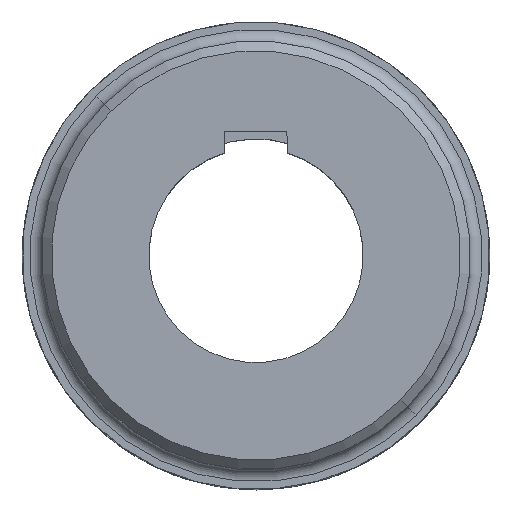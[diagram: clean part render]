
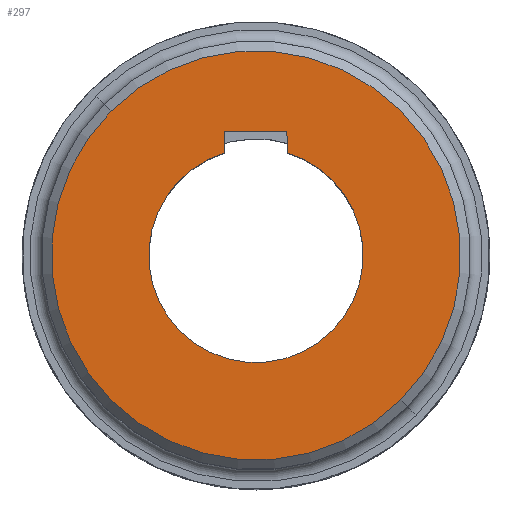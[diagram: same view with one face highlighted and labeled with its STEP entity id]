
A CAD part, top view. The second image highlights one B-rep face of the part: STEP entity #297.
In plain terms, the highlighted planar face has unit normal (0, 0, 1) as drawn and (0, 0, -1) by its records, which use the part's own axes.
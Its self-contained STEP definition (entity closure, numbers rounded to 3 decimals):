
#139 = CIRCLE ( 'NONE', #6630, 27.5 ) ;
#170 = EDGE_LOOP ( 'NONE', ( #5624, #2722 ) ) ;
#223 = DIRECTION ( 'NONE',  ( -0.882, 0.471, 0. ) ) ;
#297 = ADVANCED_FACE ( 'NONE', ( #6681, #5703 ), #5148, .T. ) ;
#405 = EDGE_LOOP ( 'NONE', ( #4349, #3964, #2205, #1813, #5236, #3954 ) ) ;
#534 = CARTESIAN_POINT ( 'NONE',  ( -24.261, 12.948, -65. ) ) ;
#569 = CARTESIAN_POINT ( 'NONE',  ( 0., 0., -65. ) ) ;
#576 = DIRECTION ( 'NONE',  ( 0., 1., 0. ) ) ;
#662 = CARTESIAN_POINT ( 'NONE',  ( -28.143, 16.829, -65. ) ) ;
#1020 = AXIS2_PLACEMENT_3D ( 'NONE', #2589, #3661, #576 ) ;
#1141 = DIRECTION ( 'NONE',  ( 0., 0., 1. ) ) ;
#1453 = VERTEX_POINT ( 'NONE', #6090 ) ;
#1499 = EDGE_CURVE ( 'NONE', #3935, #6183, #2661, .T. ) ;
#1623 = LINE ( 'NONE', #534, #6610 ) ;
#1813 = ORIENTED_EDGE ( 'NONE', *, *, #4033, .F. ) ;
#1866 = DIRECTION ( 'NONE',  ( 0.707, -0.707, 0. ) ) ;
#1874 = CARTESIAN_POINT ( 'NONE',  ( 0., 0., -65. ) ) ;
#1897 = AXIS2_PLACEMENT_3D ( 'NONE', #6744, #6190, #3463 ) ;
#1958 = CIRCLE ( 'NONE', #6273, 27.5 ) ;
#2009 = EDGE_CURVE ( 'NONE', #3935, #6183, #2557, .T. ) ;
#2060 = CARTESIAN_POINT ( 'NONE',  ( 0., 0., -65. ) ) ;
#2205 = ORIENTED_EDGE ( 'NONE', *, *, #4956, .T. ) ;
#2228 = CARTESIAN_POINT ( 'NONE',  ( -27.5, 0., -65. ) ) ;
#2368 = VERTEX_POINT ( 'NONE', #6794 ) ;
#2525 = VERTEX_POINT ( 'NONE', #4780 ) ;
#2557 = CIRCLE ( 'NONE', #1897, 52.5 ) ;
#2589 = CARTESIAN_POINT ( 'NONE',  ( 0., 0., -65. ) ) ;
#2661 = CIRCLE ( 'NONE', #1020, 52.5 ) ;
#2722 = ORIENTED_EDGE ( 'NONE', *, *, #1499, .F. ) ;
#2768 = AXIS2_PLACEMENT_3D ( 'NONE', #1874, #6157, #3562 ) ;
#2924 = DIRECTION ( 'NONE',  ( -0.882, 0.471, 0. ) ) ;
#3170 = DIRECTION ( 'NONE',  ( 0., 0., 1. ) ) ;
#3463 = DIRECTION ( 'NONE',  ( 0., 1., 0. ) ) ;
#3562 = DIRECTION ( 'NONE',  ( 0., -1., 0. ) ) ;
#3661 = DIRECTION ( 'NONE',  ( 0., 0., 1. ) ) ;
#3935 = VERTEX_POINT ( 'NONE', #4876 ) ;
#3954 = ORIENTED_EDGE ( 'NONE', *, *, #4946, .F. ) ;
#3964 = ORIENTED_EDGE ( 'NONE', *, *, #5115, .T. ) ;
#4005 = LINE ( 'NONE', #6609, #5606 ) ;
#4033 = EDGE_CURVE ( 'NONE', #2525, #5984, #4005, .T. ) ;
#4134 = DIRECTION ( 'NONE',  ( -0.882, 0.471, 0. ) ) ;
#4207 = DIRECTION ( 'NONE',  ( -0.707, 0.707, 0. ) ) ;
#4349 = ORIENTED_EDGE ( 'NONE', *, *, #6705, .T. ) ;
#4401 = CARTESIAN_POINT ( 'NONE',  ( 27.5, 0., -65. ) ) ;
#4608 = CIRCLE ( 'NONE', #5942, 27.5 ) ;
#4749 = VECTOR ( 'NONE', #4924, 1000. ) ;
#4780 = CARTESIAN_POINT ( 'NONE',  ( -16.829, 28.143, -65. ) ) ;
#4876 = CARTESIAN_POINT ( 'NONE',  ( 0., 52.5, -65. ) ) ;
#4924 = DIRECTION ( 'NONE',  ( 0.707, 0.707, 0. ) ) ;
#4946 = EDGE_CURVE ( 'NONE', #1453, #2368, #1623, .T. ) ;
#4956 = EDGE_CURVE ( 'NONE', #6039, #5984, #1958, .T. ) ;
#5115 = EDGE_CURVE ( 'NONE', #5492, #6039, #4608, .T. ) ;
#5148 = PLANE ( 'NONE',  #2768 ) ;
#5227 = CARTESIAN_POINT ( 'NONE',  ( 0., -52.5, -65. ) ) ;
#5236 = ORIENTED_EDGE ( 'NONE', *, *, #6655, .F. ) ;
#5380 = LINE ( 'NONE', #662, #4749 ) ;
#5492 = VERTEX_POINT ( 'NONE', #2228 ) ;
#5550 = CARTESIAN_POINT ( 'NONE',  ( 0., 0., -65. ) ) ;
#5606 = VECTOR ( 'NONE', #1866, 1000. ) ;
#5624 = ORIENTED_EDGE ( 'NONE', *, *, #2009, .T. ) ;
#5703 = FACE_OUTER_BOUND ( 'NONE', #170, .T. ) ;
#5942 = AXIS2_PLACEMENT_3D ( 'NONE', #2060, #3170, #223 ) ;
#5984 = VERTEX_POINT ( 'NONE', #6002 ) ;
#6002 = CARTESIAN_POINT ( 'NONE',  ( -12.948, 24.261, -65. ) ) ;
#6007 = DIRECTION ( 'NONE',  ( 0., 0., 1. ) ) ;
#6039 = VERTEX_POINT ( 'NONE', #4401 ) ;
#6090 = CARTESIAN_POINT ( 'NONE',  ( -24.261, 12.948, -65. ) ) ;
#6157 = DIRECTION ( 'NONE',  ( 0., 0., -1. ) ) ;
#6183 = VERTEX_POINT ( 'NONE', #5227 ) ;
#6190 = DIRECTION ( 'NONE',  ( 0., 0., -1. ) ) ;
#6273 = AXIS2_PLACEMENT_3D ( 'NONE', #569, #1141, #4134 ) ;
#6609 = CARTESIAN_POINT ( 'NONE',  ( -16.829, 28.143, -65. ) ) ;
#6610 = VECTOR ( 'NONE', #4207, 1000. ) ;
#6630 = AXIS2_PLACEMENT_3D ( 'NONE', #5550, #6007, #2924 ) ;
#6655 = EDGE_CURVE ( 'NONE', #2368, #2525, #5380, .T. ) ;
#6681 = FACE_BOUND ( 'NONE', #405, .T. ) ;
#6705 = EDGE_CURVE ( 'NONE', #1453, #5492, #139, .T. ) ;
#6744 = CARTESIAN_POINT ( 'NONE',  ( 0., 0., -65. ) ) ;
#6794 = CARTESIAN_POINT ( 'NONE',  ( -28.143, 16.829, -65. ) ) ;
